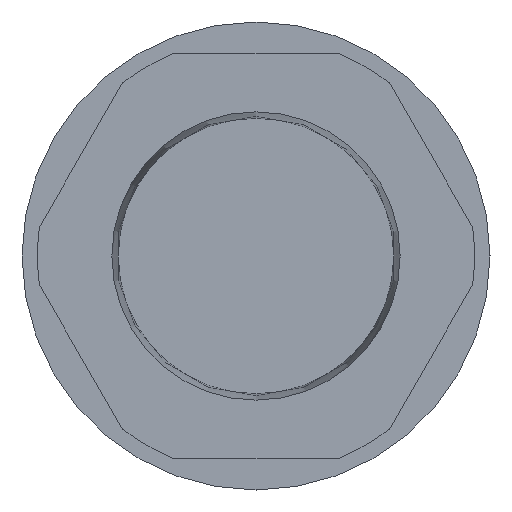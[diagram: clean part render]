
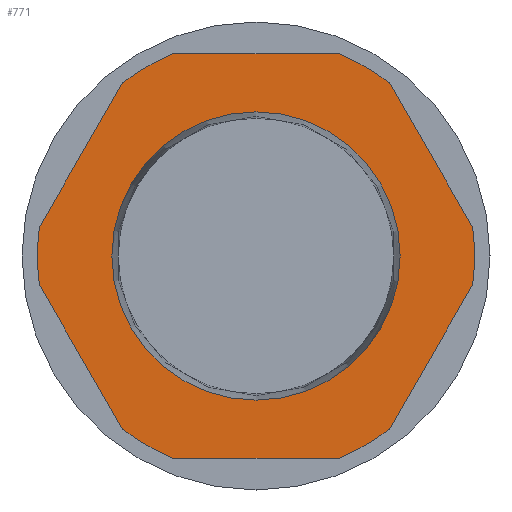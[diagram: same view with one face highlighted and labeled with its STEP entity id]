
A CAD part, left-side view. The second image highlights one B-rep face of the part: STEP entity #771.
In plain terms, the highlighted planar face has unit normal (-1, 0, 0).
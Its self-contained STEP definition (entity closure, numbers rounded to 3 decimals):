
#84=CARTESIAN_POINT('',(-47.69,0.,13.55));
#85=VERTEX_POINT('',#84);
#86=CARTESIAN_POINT('',(-47.69,0.0,0.0));
#87=DIRECTION('',(1.0,0.0,0.0));
#88=DIRECTION('',(0.0,0.0,-1.0));
#89=AXIS2_PLACEMENT_3D('',#86,#87,#88);
#90=CIRCLE('',#89,13.55);
#91=EDGE_CURVE('',#85,#85,#90,.T.);
#460=CARTESIAN_POINT('',(-47.69,7.83,19.));
#461=VERTEX_POINT('',#460);
#469=CARTESIAN_POINT('',(-47.69,12.54,16.281));
#470=VERTEX_POINT('',#469);
#477=CARTESIAN_POINT('',(-47.69,0.0,0.0));
#478=DIRECTION('',(1.0,0.0,0.0));
#479=DIRECTION('',(0.0,-1.0,0.0));
#480=AXIS2_PLACEMENT_3D('',#477,#478,#479);
#481=CIRCLE('',#480,20.55);
#482=EDGE_CURVE('',#470,#461,#481,.T.);
#492=CARTESIAN_POINT('',(-47.69,-12.54,16.281));
#493=VERTEX_POINT('',#492);
#501=CARTESIAN_POINT('',(-47.69,-7.83,19.0));
#502=VERTEX_POINT('',#501);
#509=CARTESIAN_POINT('',(-47.69,0.0,0.0));
#510=DIRECTION('',(1.0,0.0,0.0));
#511=DIRECTION('',(0.0,-1.0,0.0));
#512=AXIS2_PLACEMENT_3D('',#509,#510,#511);
#513=CIRCLE('',#512,20.55);
#514=EDGE_CURVE('',#502,#493,#513,.T.);
#524=CARTESIAN_POINT('',(-47.69,20.369,-2.719));
#525=VERTEX_POINT('',#524);
#532=CARTESIAN_POINT('',(-47.69,20.369,2.719));
#533=VERTEX_POINT('',#532);
#534=CARTESIAN_POINT('',(-47.69,0.0,0.0));
#535=DIRECTION('',(1.0,0.0,0.0));
#536=DIRECTION('',(0.0,-1.0,0.0));
#537=AXIS2_PLACEMENT_3D('',#534,#535,#536);
#538=CIRCLE('',#537,20.55);
#539=EDGE_CURVE('',#525,#533,#538,.T.);
#556=CARTESIAN_POINT('',(-47.69,-20.369,-2.719));
#557=VERTEX_POINT('',#556);
#565=CARTESIAN_POINT('',(-47.69,-20.369,2.719));
#566=VERTEX_POINT('',#565);
#573=CARTESIAN_POINT('',(-47.69,0.0,0.0));
#574=DIRECTION('',(1.0,0.0,0.0));
#575=DIRECTION('',(0.0,-1.0,0.0));
#576=AXIS2_PLACEMENT_3D('',#573,#574,#575);
#577=CIRCLE('',#576,20.55);
#578=EDGE_CURVE('',#566,#557,#577,.T.);
#588=CARTESIAN_POINT('',(-47.69,7.83,-19.));
#589=VERTEX_POINT('',#588);
#596=CARTESIAN_POINT('',(-47.69,12.54,-16.281));
#597=VERTEX_POINT('',#596);
#598=CARTESIAN_POINT('',(-47.69,0.0,0.0));
#599=DIRECTION('',(1.0,0.0,0.0));
#600=DIRECTION('',(0.0,-1.0,0.0));
#601=AXIS2_PLACEMENT_3D('',#598,#599,#600);
#602=CIRCLE('',#601,20.55);
#603=EDGE_CURVE('',#589,#597,#602,.T.);
#620=CARTESIAN_POINT('',(-47.69,-7.83,-19.));
#621=VERTEX_POINT('',#620);
#629=CARTESIAN_POINT('',(-47.69,-12.54,-16.281));
#630=VERTEX_POINT('',#629);
#637=CARTESIAN_POINT('',(-47.69,0.0,0.0));
#638=DIRECTION('',(1.0,0.0,0.0));
#639=DIRECTION('',(0.0,-1.0,0.0));
#640=AXIS2_PLACEMENT_3D('',#637,#638,#639);
#641=CIRCLE('',#640,20.55);
#642=EDGE_CURVE('',#630,#621,#641,.T.);
#653=CARTESIAN_POINT('',(-47.69,-7.83,-19.));
#654=DIRECTION('',(0.0,1.0,0.0));
#655=VECTOR('',#654,15.659);
#656=LINE('',#653,#655);
#657=EDGE_CURVE('',#621,#589,#656,.T.);
#672=CARTESIAN_POINT('',(-47.69,-20.369,-2.719));
#673=DIRECTION('',(0.0,0.5,-0.866));
#674=VECTOR('',#673,15.659);
#675=LINE('',#672,#674);
#676=EDGE_CURVE('',#557,#630,#675,.T.);
#687=CARTESIAN_POINT('',(-47.69,12.54,-16.281));
#688=DIRECTION('',(0.0,0.5,0.866));
#689=VECTOR('',#688,15.659);
#690=LINE('',#687,#689);
#691=EDGE_CURVE('',#597,#525,#690,.T.);
#706=CARTESIAN_POINT('',(-47.69,-12.54,16.281));
#707=DIRECTION('',(0.0,-0.5,-0.866));
#708=VECTOR('',#707,15.659);
#709=LINE('',#706,#708);
#710=EDGE_CURVE('',#493,#566,#709,.T.);
#723=CARTESIAN_POINT('',(-47.69,7.83,19.));
#724=DIRECTION('',(0.0,-1.0,0.0));
#725=VECTOR('',#724,15.659);
#726=LINE('',#723,#725);
#727=EDGE_CURVE('',#461,#502,#726,.T.);
#738=CARTESIAN_POINT('',(-47.69,20.369,2.719));
#739=DIRECTION('',(0.0,-0.5,0.866));
#740=VECTOR('',#739,15.659);
#741=LINE('',#738,#740);
#742=EDGE_CURVE('',#533,#470,#741,.T.);
#749=CARTESIAN_POINT('',(-47.69,0.,0.));
#750=DIRECTION('',(1.0,0.0,0.0));
#751=DIRECTION('',(0.0,0.0,-1.0));
#752=AXIS2_PLACEMENT_3D('',#749,#750,#751);
#753=PLANE('',#752);
#754=ORIENTED_EDGE('',*,*,#642,.F.);
#755=ORIENTED_EDGE('',*,*,#676,.F.);
#756=ORIENTED_EDGE('',*,*,#578,.F.);
#757=ORIENTED_EDGE('',*,*,#710,.F.);
#758=ORIENTED_EDGE('',*,*,#514,.F.);
#759=ORIENTED_EDGE('',*,*,#727,.F.);
#760=ORIENTED_EDGE('',*,*,#482,.F.);
#761=ORIENTED_EDGE('',*,*,#742,.F.);
#762=ORIENTED_EDGE('',*,*,#539,.F.);
#763=ORIENTED_EDGE('',*,*,#691,.F.);
#764=ORIENTED_EDGE('',*,*,#603,.F.);
#765=ORIENTED_EDGE('',*,*,#657,.F.);
#766=EDGE_LOOP('',(#754,#755,#756,#757,#758,#759,#760,#761,#762,#763,#764,#765));
#767=FACE_OUTER_BOUND('',#766,.T.);
#768=ORIENTED_EDGE('',*,*,#91,.T.);
#769=EDGE_LOOP('',(#768));
#770=FACE_BOUND('',#769,.T.);
#771=ADVANCED_FACE('',(#767,#770),#753,.F.);
